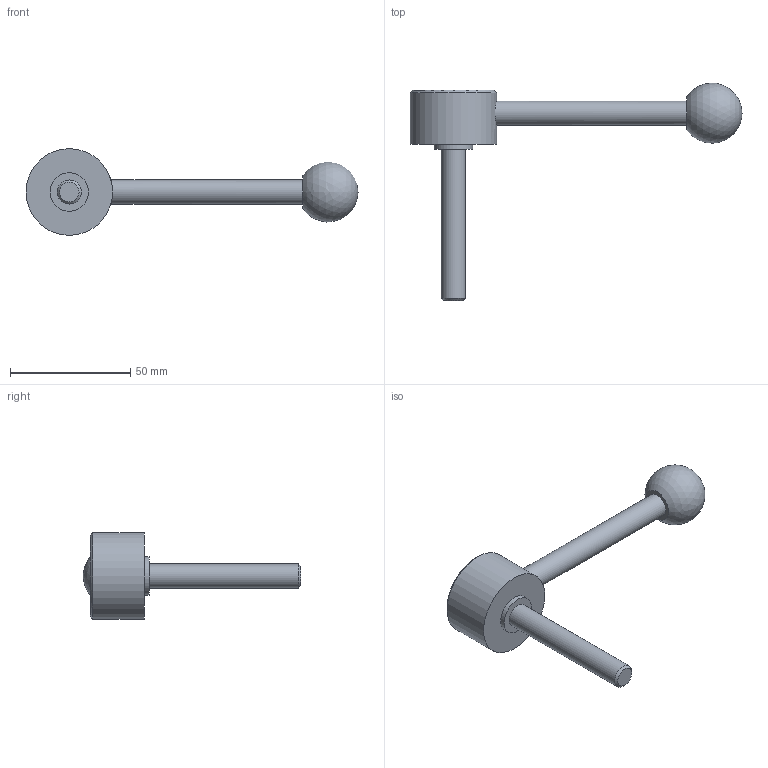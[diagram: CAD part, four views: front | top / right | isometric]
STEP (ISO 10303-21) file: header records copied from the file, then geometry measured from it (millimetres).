
FILE_DESCRIPTION( ( 'STEP AP203' ), '1' );
FILE_NAME( 'C:/Temp/Ganter_Step_05_03_2020/data/2_1/gn_125/gn_125_ms/gn_125_ms_d/Flat Adjustable Lever GN 125-36-M10-63-D.stp', '2020-03-05T11:00:48', ( 'License CC BY-ND 4.0' ), ( 'CADENAS' ), ' ', 'PARTsolutions', ' ' );
FILE_SCHEMA( ( 'CONFIG_CONTROL_DESIGN' ) );
Length unit declared in the file: millimetre
Products named in the file (1): _Flat Adjustable Lever GN 125-36-M10-63-D
Bounding box: 138 x 90.38 x 36 mm (x, y, z)
Volume: 42301.7 mm3; surface area: 10880.9 mm2
Topology: 1 solids, 1 shells, 14 faces, 23 edges, 15 vertices
Faces by surface type: plane 6, cylinder 5, cone 2, sphere 1
Full cylindrical faces by diameter (mm): 10 x2, 16 x1, 26 x1, 36 x1
Entity records: 392 total; most frequent: CARTESIAN_POINT 115, DIRECTION 54, AXIS2_PLACEMENT_3D 27, EDGE_LOOP 26, ORIENTED_EDGE 26, FACE_OUTER_BOUND 19, ADVANCED_FACE 14, VERTEX_POINT 14
